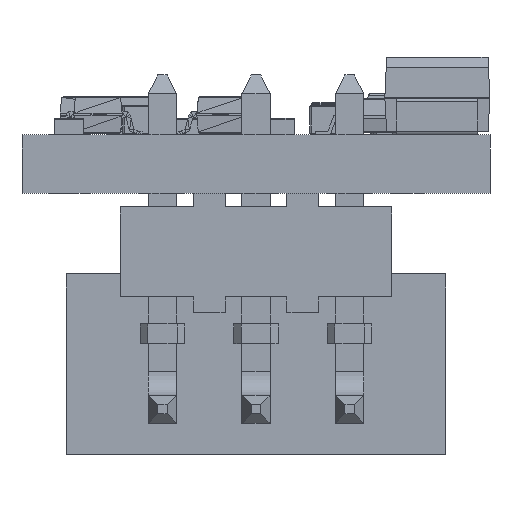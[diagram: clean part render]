
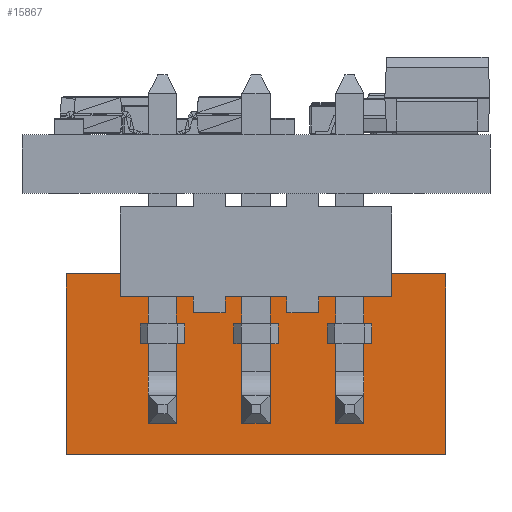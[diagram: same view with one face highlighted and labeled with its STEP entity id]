
A CAD part, front view. The second image highlights one B-rep face of the part: STEP entity #15867.
In plain terms, the highlighted planar face has unit normal (0, -1, 0) as drawn and (0, 0, -1) by its records, which use the part's own axes.
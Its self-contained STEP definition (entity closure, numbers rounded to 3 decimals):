
#15769 = VERTEX_POINT('',#15770);
#15770 = CARTESIAN_POINT('',(-2.608,-1.625,3.215));
#15778 = EDGE_CURVE('',#15769,#15779,#15781,.T.);
#15779 = VERTEX_POINT('',#15780);
#15780 = CARTESIAN_POINT('',(-2.608,3.275,3.215));
#15781 = LINE('',#15782,#15783);
#15782 = CARTESIAN_POINT('',(-2.608,-1.625,3.215));
#15783 = VECTOR('',#15784,1.);
#15784 = DIRECTION('',(0.,1.,0.));
#15817 = VERTEX_POINT('',#15818);
#15818 = CARTESIAN_POINT('',(7.688,-1.625,3.215));
#15826 = EDGE_CURVE('',#15769,#15817,#15827,.T.);
#15827 = LINE('',#15828,#15829);
#15828 = CARTESIAN_POINT('',(-2.608,-1.625,3.215));
#15829 = VECTOR('',#15830,1.);
#15830 = DIRECTION('',(1.,0.,0.));
#15867 = ADVANCED_FACE('',(#15868),#15886,.F.);
#15868 = FACE_BOUND('',#15869,.F.);
#15869 = EDGE_LOOP('',(#15870,#15871,#15872,#15880));
#15870 = ORIENTED_EDGE('',*,*,#15778,.F.);
#15871 = ORIENTED_EDGE('',*,*,#15826,.T.);
#15872 = ORIENTED_EDGE('',*,*,#15873,.T.);
#15873 = EDGE_CURVE('',#15817,#15874,#15876,.T.);
#15874 = VERTEX_POINT('',#15875);
#15875 = CARTESIAN_POINT('',(7.688,3.275,3.215));
#15876 = LINE('',#15877,#15878);
#15877 = CARTESIAN_POINT('',(7.688,-1.625,3.215));
#15878 = VECTOR('',#15879,1.);
#15879 = DIRECTION('',(0.,1.,0.));
#15880 = ORIENTED_EDGE('',*,*,#15881,.F.);
#15881 = EDGE_CURVE('',#15779,#15874,#15882,.T.);
#15882 = LINE('',#15883,#15884);
#15883 = CARTESIAN_POINT('',(-2.608,3.275,3.215));
#15884 = VECTOR('',#15885,1.);
#15885 = DIRECTION('',(1.,0.,0.));
#15886 = PLANE('',#15887);
#15887 = AXIS2_PLACEMENT_3D('',#15888,#15889,#15890);
#15888 = CARTESIAN_POINT('',(-2.608,-1.625,3.215));
#15889 = DIRECTION('',(0.,0.,1.));
#15890 = DIRECTION('',(1.,0.,0.));
